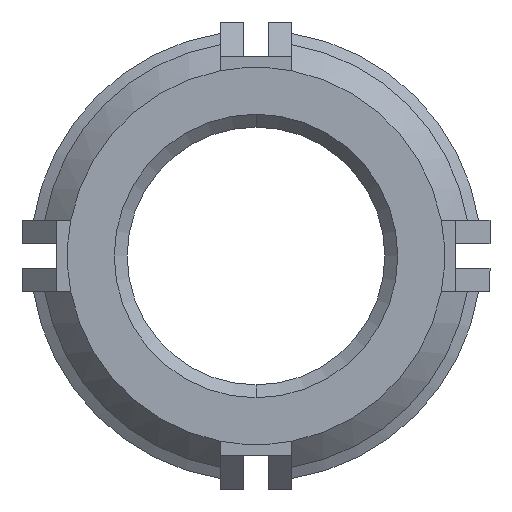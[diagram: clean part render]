
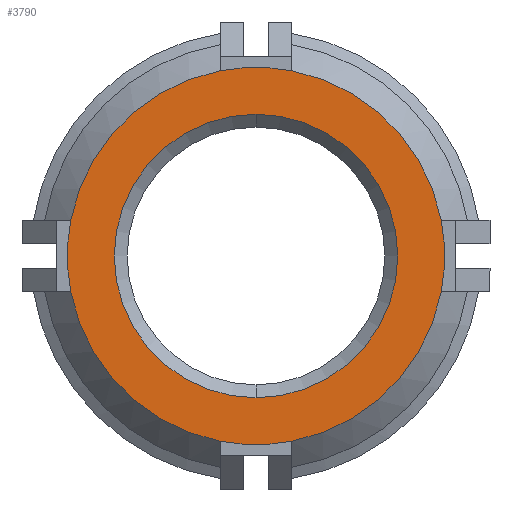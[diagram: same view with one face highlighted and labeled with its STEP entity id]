
A CAD part, front view. The second image highlights one B-rep face of the part: STEP entity #3790.
In plain terms, the highlighted planar face has unit normal (0, -1, 0).
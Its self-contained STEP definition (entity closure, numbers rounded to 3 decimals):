
#24 = PLANE ( 'NONE',  #2625 ) ;
#123 = DIRECTION ( 'NONE',  ( 0., 0., 1. ) ) ;
#147 = ORIENTED_EDGE ( 'NONE', *, *, #4254, .T. ) ;
#157 = CARTESIAN_POINT ( 'NONE',  ( 0., -17.272, 0. ) ) ;
#163 = AXIS2_PLACEMENT_3D ( 'NONE', #1178, #4972, #4137 ) ;
#208 = EDGE_CURVE ( 'NONE', #1961, #2931, #2866, .T. ) ;
#232 = CIRCLE ( 'NONE', #4111, 9.298 ) ;
#255 = AXIS2_PLACEMENT_3D ( 'NONE', #2975, #4329, #1820 ) ;
#279 = CARTESIAN_POINT ( 'NONE',  ( 0., -17.272, 0. ) ) ;
#295 = DIRECTION ( 'NONE',  ( 0., -1., 0. ) ) ;
#324 = CARTESIAN_POINT ( 'NONE',  ( 0., -17.272, 0. ) ) ;
#504 = DIRECTION ( 'NONE',  ( 0., -1., 0. ) ) ;
#518 = EDGE_CURVE ( 'NONE', #1422, #5420, #829, .T. ) ;
#536 = EDGE_CURVE ( 'NONE', #2931, #1422, #1448, .T. ) ;
#817 = VERTEX_POINT ( 'NONE', #5448 ) ;
#829 = CIRCLE ( 'NONE', #3913, 9.298 ) ;
#838 = CARTESIAN_POINT ( 'NONE',  ( 9.132, -17.272, -1.75 ) ) ;
#904 = DIRECTION ( 'NONE',  ( 0., 0., -1. ) ) ;
#923 = EDGE_LOOP ( 'NONE', ( #147, #1520 ) ) ;
#937 = AXIS2_PLACEMENT_3D ( 'NONE', #1320, #4636, #2611 ) ;
#1134 = VERTEX_POINT ( 'NONE', #4947 ) ;
#1178 = CARTESIAN_POINT ( 'NONE',  ( 0., -17.272, 0. ) ) ;
#1199 = ORIENTED_EDGE ( 'NONE', *, *, #1842, .T. ) ;
#1320 = CARTESIAN_POINT ( 'NONE',  ( 0., -17.272, 0. ) ) ;
#1343 = VERTEX_POINT ( 'NONE', #1861 ) ;
#1422 = VERTEX_POINT ( 'NONE', #4485 ) ;
#1448 = CIRCLE ( 'NONE', #2681, 9.298 ) ;
#1520 = ORIENTED_EDGE ( 'NONE', *, *, #3881, .T. ) ;
#1564 = CIRCLE ( 'NONE', #5363, 9.298 ) ;
#1576 = CIRCLE ( 'NONE', #255, 6.985 ) ;
#1705 = CARTESIAN_POINT ( 'NONE',  ( 0., -17.272, 0. ) ) ;
#1738 = DIRECTION ( 'NONE',  ( 0., -1., 0. ) ) ;
#1756 = VERTEX_POINT ( 'NONE', #4694 ) ;
#1757 = ORIENTED_EDGE ( 'NONE', *, *, #536, .T. ) ;
#1771 = CARTESIAN_POINT ( 'NONE',  ( 1.75, -17.272, -9.132 ) ) ;
#1820 = DIRECTION ( 'NONE',  ( 0., 0., 1. ) ) ;
#1831 = CARTESIAN_POINT ( 'NONE',  ( -1.75, -17.272, 9.132 ) ) ;
#1842 = EDGE_CURVE ( 'NONE', #4942, #1343, #232, .T. ) ;
#1845 = EDGE_LOOP ( 'NONE', ( #5219, #4473, #1876, #4097, #1757, #4527, #3245, #1199 ) ) ;
#1861 = CARTESIAN_POINT ( 'NONE',  ( -9.132, -17.272, 1.75 ) ) ;
#1876 = ORIENTED_EDGE ( 'NONE', *, *, #2532, .T. ) ;
#1961 = VERTEX_POINT ( 'NONE', #1771 ) ;
#1966 = DIRECTION ( 'NONE',  ( 0., 0., 1. ) ) ;
#1996 = DIRECTION ( 'NONE',  ( 0., 0., 1. ) ) ;
#2152 = CARTESIAN_POINT ( 'NONE',  ( 0., -17.272, 0. ) ) ;
#2243 = DIRECTION ( 'NONE',  ( 0., 0., 1. ) ) ;
#2343 = AXIS2_PLACEMENT_3D ( 'NONE', #4067, #3147, #1996 ) ;
#2433 = FACE_BOUND ( 'NONE', #923, .T. ) ;
#2528 = AXIS2_PLACEMENT_3D ( 'NONE', #324, #295, #3211 ) ;
#2532 = EDGE_CURVE ( 'NONE', #817, #1961, #3326, .T. ) ;
#2611 = DIRECTION ( 'NONE',  ( -1., 0., 0. ) ) ;
#2625 = AXIS2_PLACEMENT_3D ( 'NONE', #1705, #5403, #4615 ) ;
#2681 = AXIS2_PLACEMENT_3D ( 'NONE', #3424, #1738, #904 ) ;
#2710 = CARTESIAN_POINT ( 'NONE',  ( 0., -17.272, 0. ) ) ;
#2737 = EDGE_CURVE ( 'NONE', #1343, #1134, #1564, .T. ) ;
#2810 = EDGE_CURVE ( 'NONE', #5420, #4942, #4203, .T. ) ;
#2866 = CIRCLE ( 'NONE', #2343, 9.298 ) ;
#2877 = CARTESIAN_POINT ( 'NONE',  ( 0., -17.272, -6.985 ) ) ;
#2931 = VERTEX_POINT ( 'NONE', #838 ) ;
#2975 = CARTESIAN_POINT ( 'NONE',  ( 0., -17.272, 0. ) ) ;
#3145 = AXIS2_PLACEMENT_3D ( 'NONE', #2710, #504, #2243 ) ;
#3147 = DIRECTION ( 'NONE',  ( 0., -1., 0. ) ) ;
#3211 = DIRECTION ( 'NONE',  ( 1., 0., 0. ) ) ;
#3245 = ORIENTED_EDGE ( 'NONE', *, *, #2810, .T. ) ;
#3314 = FACE_OUTER_BOUND ( 'NONE', #1845, .T. ) ;
#3326 = CIRCLE ( 'NONE', #937, 9.298 ) ;
#3424 = CARTESIAN_POINT ( 'NONE',  ( 0., -17.272, 0. ) ) ;
#3431 = VERTEX_POINT ( 'NONE', #2877 ) ;
#3475 = CARTESIAN_POINT ( 'NONE',  ( 1.75, -17.272, 9.132 ) ) ;
#3593 = CIRCLE ( 'NONE', #3145, 9.298 ) ;
#3790 = ADVANCED_FACE ( 'NONE', ( #2433, #3314 ), #24, .F. ) ;
#3881 = EDGE_CURVE ( 'NONE', #1756, #3431, #1576, .T. ) ;
#3913 = AXIS2_PLACEMENT_3D ( 'NONE', #2152, #4755, #4673 ) ;
#4067 = CARTESIAN_POINT ( 'NONE',  ( 0., -17.272, 0. ) ) ;
#4097 = ORIENTED_EDGE ( 'NONE', *, *, #208, .T. ) ;
#4111 = AXIS2_PLACEMENT_3D ( 'NONE', #279, #4510, #1966 ) ;
#4137 = DIRECTION ( 'NONE',  ( 0., 0., 1. ) ) ;
#4203 = CIRCLE ( 'NONE', #2528, 9.298 ) ;
#4254 = EDGE_CURVE ( 'NONE', #3431, #1756, #5471, .T. ) ;
#4329 = DIRECTION ( 'NONE',  ( 0., 1., 0. ) ) ;
#4473 = ORIENTED_EDGE ( 'NONE', *, *, #5010, .T. ) ;
#4485 = CARTESIAN_POINT ( 'NONE',  ( 9.132, -17.272, 1.75 ) ) ;
#4510 = DIRECTION ( 'NONE',  ( 0., -1., 0. ) ) ;
#4527 = ORIENTED_EDGE ( 'NONE', *, *, #518, .T. ) ;
#4615 = DIRECTION ( 'NONE',  ( 0., 0., 1. ) ) ;
#4636 = DIRECTION ( 'NONE',  ( 0., -1., 0. ) ) ;
#4673 = DIRECTION ( 'NONE',  ( 0., 0., 1. ) ) ;
#4694 = CARTESIAN_POINT ( 'NONE',  ( 0., -17.272, 6.985 ) ) ;
#4755 = DIRECTION ( 'NONE',  ( 0., -1., 0. ) ) ;
#4797 = DIRECTION ( 'NONE',  ( 0., -1., 0. ) ) ;
#4942 = VERTEX_POINT ( 'NONE', #1831 ) ;
#4947 = CARTESIAN_POINT ( 'NONE',  ( -9.132, -17.272, -1.75 ) ) ;
#4972 = DIRECTION ( 'NONE',  ( 0., 1., 0. ) ) ;
#5010 = EDGE_CURVE ( 'NONE', #1134, #817, #3593, .T. ) ;
#5219 = ORIENTED_EDGE ( 'NONE', *, *, #2737, .T. ) ;
#5363 = AXIS2_PLACEMENT_3D ( 'NONE', #157, #4797, #123 ) ;
#5403 = DIRECTION ( 'NONE',  ( 0., 1., 0. ) ) ;
#5420 = VERTEX_POINT ( 'NONE', #3475 ) ;
#5448 = CARTESIAN_POINT ( 'NONE',  ( -1.75, -17.272, -9.132 ) ) ;
#5471 = CIRCLE ( 'NONE', #163, 6.985 ) ;
